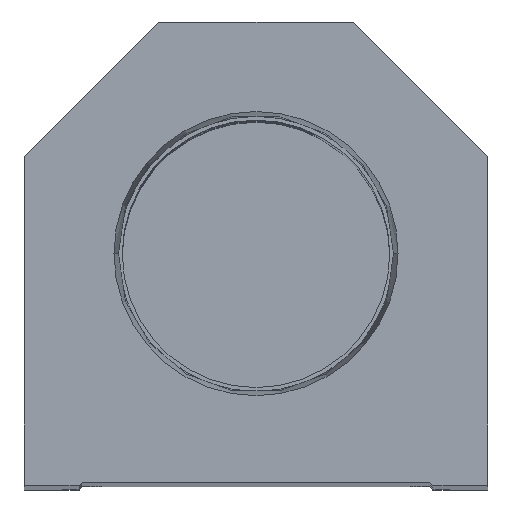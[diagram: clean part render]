
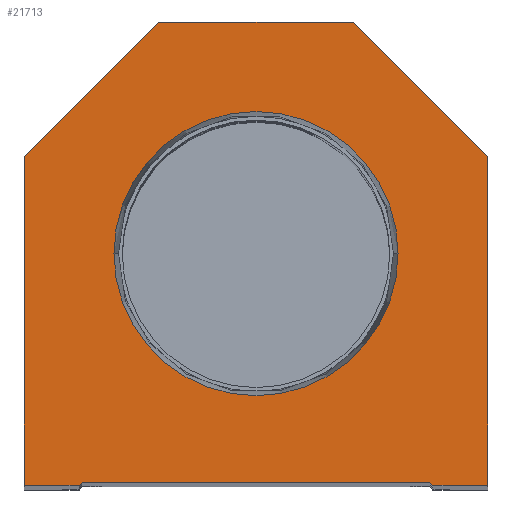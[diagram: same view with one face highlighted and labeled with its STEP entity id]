
A CAD part, top view. The second image highlights one B-rep face of the part: STEP entity #21713.
In plain terms, the highlighted planar face has unit normal (0, 0, 1).
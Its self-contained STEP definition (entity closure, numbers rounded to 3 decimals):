
#348 = VERTEX_POINT ( 'NONE', #17894 ) ;
#444 = CIRCLE ( 'NONE', #24634, 23.374 ) ;
#662 = EDGE_CURVE ( 'NONE', #4770, #20378, #11350, .T. ) ;
#843 = VECTOR ( 'NONE', #11325, 1000. ) ;
#1101 = ORIENTED_EDGE ( 'NONE', *, *, #4083, .T. ) ;
#1119 = ORIENTED_EDGE ( 'NONE', *, *, #662, .T. ) ;
#1306 = EDGE_CURVE ( 'NONE', #10360, #23250, #1663, .T. ) ;
#1314 = CARTESIAN_POINT ( 'NONE',  ( 16., 76.2, 0. ) ) ;
#1342 = ORIENTED_EDGE ( 'NONE', *, *, #14242, .T. ) ;
#1397 = FACE_OUTER_BOUND ( 'NONE', #6543, .T. ) ;
#1446 = DIRECTION ( 'NONE',  ( -1., 0., 0. ) ) ;
#1663 = LINE ( 'NONE', #3596, #20732 ) ;
#2388 = CARTESIAN_POINT ( 'NONE',  ( -14.55, 14.55, 0. ) ) ;
#2978 = ORIENTED_EDGE ( 'NONE', *, *, #15851, .T. ) ;
#3154 = CARTESIAN_POINT ( 'NONE',  ( -28.6, 0.5, 0. ) ) ;
#3402 = DIRECTION ( 'NONE',  ( 1., 0., 0. ) ) ;
#3443 = DIRECTION ( 'NONE',  ( 0., 0., 1. ) ) ;
#3454 = DIRECTION ( 'NONE',  ( 0., 0., 1. ) ) ;
#3508 = CARTESIAN_POINT ( 'NONE',  ( 28.6, 0., 0. ) ) ;
#3596 = CARTESIAN_POINT ( 'NONE',  ( -28.6, 0., 0. ) ) ;
#3953 = CARTESIAN_POINT ( 'NONE',  ( -38.1, 0., 0. ) ) ;
#3984 = VECTOR ( 'NONE', #6025, 1000. ) ;
#4005 = CARTESIAN_POINT ( 'NONE',  ( -38.1, 54.1, 0. ) ) ;
#4083 = EDGE_CURVE ( 'NONE', #5324, #12600, #6074, .T. ) ;
#4118 = CIRCLE ( 'NONE', #10655, 23.374 ) ;
#4358 = ORIENTED_EDGE ( 'NONE', *, *, #8660, .F. ) ;
#4770 = VERTEX_POINT ( 'NONE', #17488 ) ;
#4979 = ORIENTED_EDGE ( 'NONE', *, *, #8951, .T. ) ;
#5324 = VERTEX_POINT ( 'NONE', #7781 ) ;
#5882 = VECTOR ( 'NONE', #1446, 1000. ) ;
#5953 = EDGE_LOOP ( 'NONE', ( #20849, #4358 ) ) ;
#6025 = DIRECTION ( 'NONE',  ( -0.707, 0.707, 0. ) ) ;
#6074 = LINE ( 'NONE', #4005, #24443 ) ;
#6489 = CARTESIAN_POINT ( 'NONE',  ( -38.1, 54.1, 0. ) ) ;
#6543 = EDGE_LOOP ( 'NONE', ( #16892, #4979, #1119, #17408, #1342, #10016, #20594, #2978, #1101, #23996 ) ) ;
#7398 = VERTEX_POINT ( 'NONE', #17748 ) ;
#7454 = LINE ( 'NONE', #13367, #20496 ) ;
#7581 = DIRECTION ( 'NONE',  ( 1., 0., 0. ) ) ;
#7781 = CARTESIAN_POINT ( 'NONE',  ( -16., 76.2, 0. ) ) ;
#8643 = EDGE_CURVE ( 'NONE', #20378, #16135, #7454, .T. ) ;
#8660 = EDGE_CURVE ( 'NONE', #348, #15490, #4118, .T. ) ;
#8951 = EDGE_CURVE ( 'NONE', #23250, #4770, #12004, .T. ) ;
#10016 = ORIENTED_EDGE ( 'NONE', *, *, #10561, .T. ) ;
#10356 = CARTESIAN_POINT ( 'NONE',  ( 23.374, 38.1, 0. ) ) ;
#10360 = VERTEX_POINT ( 'NONE', #17472 ) ;
#10561 = EDGE_CURVE ( 'NONE', #7398, #21525, #22431, .T. ) ;
#10655 = AXIS2_PLACEMENT_3D ( 'NONE', #13222, #3454, #18872 ) ;
#11132 = PLANE ( 'NONE',  #19418 ) ;
#11257 = DIRECTION ( 'NONE',  ( 1., 0., 0. ) ) ;
#11325 = DIRECTION ( 'NONE',  ( 1., 0., 0. ) ) ;
#11350 = LINE ( 'NONE', #3154, #25338 ) ;
#11503 = DIRECTION ( 'NONE',  ( 0., -1., 0. ) ) ;
#12004 = LINE ( 'NONE', #2388, #19318 ) ;
#12011 = LINE ( 'NONE', #3953, #12020 ) ;
#12020 = VECTOR ( 'NONE', #11503, 1000. ) ;
#12600 = VERTEX_POINT ( 'NONE', #6489 ) ;
#13208 = CARTESIAN_POINT ( 'NONE',  ( 0., 0., 0. ) ) ;
#13222 = CARTESIAN_POINT ( 'NONE',  ( 0., 38.1, 0. ) ) ;
#13367 = CARTESIAN_POINT ( 'NONE',  ( 14.55, 14.55, 0. ) ) ;
#13597 = DIRECTION ( 'NONE',  ( 0.707, 0.707, 0. ) ) ;
#13648 = CARTESIAN_POINT ( 'NONE',  ( 38.1, 54.1, 0. ) ) ;
#14242 = EDGE_CURVE ( 'NONE', #16135, #7398, #14607, .T. ) ;
#14456 = EDGE_CURVE ( 'NONE', #15490, #348, #444, .T. ) ;
#14607 = LINE ( 'NONE', #3508, #843 ) ;
#15490 = VERTEX_POINT ( 'NONE', #10356 ) ;
#15649 = CARTESIAN_POINT ( 'NONE',  ( 29.1, 0., 0. ) ) ;
#15851 = EDGE_CURVE ( 'NONE', #21776, #5324, #18909, .T. ) ;
#16135 = VERTEX_POINT ( 'NONE', #15649 ) ;
#16190 = EDGE_CURVE ( 'NONE', #12600, #10360, #12011, .T. ) ;
#16892 = ORIENTED_EDGE ( 'NONE', *, *, #1306, .T. ) ;
#17063 = FACE_BOUND ( 'NONE', #5953, .T. ) ;
#17210 = DIRECTION ( 'NONE',  ( 0.707, -0.707, 0. ) ) ;
#17408 = ORIENTED_EDGE ( 'NONE', *, *, #8643, .T. ) ;
#17472 = CARTESIAN_POINT ( 'NONE',  ( -38.1, 0., 0. ) ) ;
#17488 = CARTESIAN_POINT ( 'NONE',  ( -28.6, 0.5, 0. ) ) ;
#17520 = CARTESIAN_POINT ( 'NONE',  ( 0., 38.1, 0. ) ) ;
#17748 = CARTESIAN_POINT ( 'NONE',  ( 38.1, 0., 0. ) ) ;
#17755 = DIRECTION ( 'NONE',  ( -0.707, -0.707, 0. ) ) ;
#17894 = CARTESIAN_POINT ( 'NONE',  ( -23.374, 38.1, 0. ) ) ;
#18592 = CARTESIAN_POINT ( 'NONE',  ( 16., 76.2, 0. ) ) ;
#18798 = CARTESIAN_POINT ( 'NONE',  ( -29.1, 0., 0. ) ) ;
#18872 = DIRECTION ( 'NONE',  ( 1., 0., 0. ) ) ;
#18909 = LINE ( 'NONE', #1314, #5882 ) ;
#19318 = VECTOR ( 'NONE', #13597, 1000. ) ;
#19418 = AXIS2_PLACEMENT_3D ( 'NONE', #13208, #3443, #11257 ) ;
#20234 = EDGE_CURVE ( 'NONE', #21525, #21776, #21535, .T. ) ;
#20378 = VERTEX_POINT ( 'NONE', #23308 ) ;
#20496 = VECTOR ( 'NONE', #17210, 1000. ) ;
#20594 = ORIENTED_EDGE ( 'NONE', *, *, #20234, .T. ) ;
#20732 = VECTOR ( 'NONE', #7581, 1000. ) ;
#20849 = ORIENTED_EDGE ( 'NONE', *, *, #14456, .F. ) ;
#21525 = VERTEX_POINT ( 'NONE', #13648 ) ;
#21535 = LINE ( 'NONE', #23600, #3984 ) ;
#21713 = ADVANCED_FACE ( 'NONE', ( #17063, #1397 ), #11132, .T. ) ;
#21776 = VERTEX_POINT ( 'NONE', #18592 ) ;
#22308 = DIRECTION ( 'NONE',  ( 0., 1., 0. ) ) ;
#22431 = LINE ( 'NONE', #22679, #24717 ) ;
#22679 = CARTESIAN_POINT ( 'NONE',  ( 38.1, 0., 0. ) ) ;
#23250 = VERTEX_POINT ( 'NONE', #18798 ) ;
#23308 = CARTESIAN_POINT ( 'NONE',  ( 28.6, 0.5, 0. ) ) ;
#23600 = CARTESIAN_POINT ( 'NONE',  ( 38.1, 54.1, 0. ) ) ;
#23669 = DIRECTION ( 'NONE',  ( 1., 0., 0. ) ) ;
#23996 = ORIENTED_EDGE ( 'NONE', *, *, #16190, .T. ) ;
#24443 = VECTOR ( 'NONE', #17755, 1000. ) ;
#24634 = AXIS2_PLACEMENT_3D ( 'NONE', #17520, #25347, #23669 ) ;
#24717 = VECTOR ( 'NONE', #22308, 1000. ) ;
#25338 = VECTOR ( 'NONE', #3402, 1000. ) ;
#25347 = DIRECTION ( 'NONE',  ( 0., 0., 1. ) ) ;
